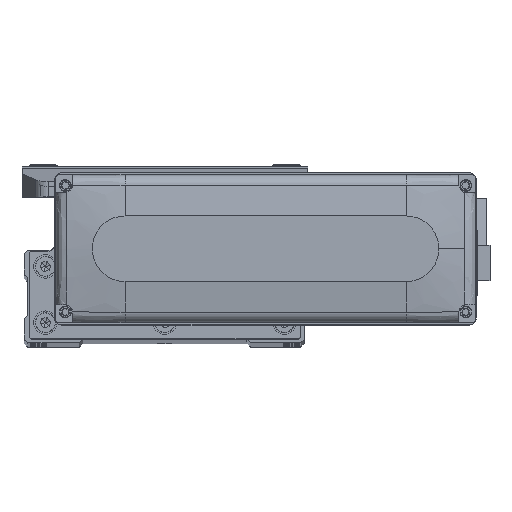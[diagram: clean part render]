
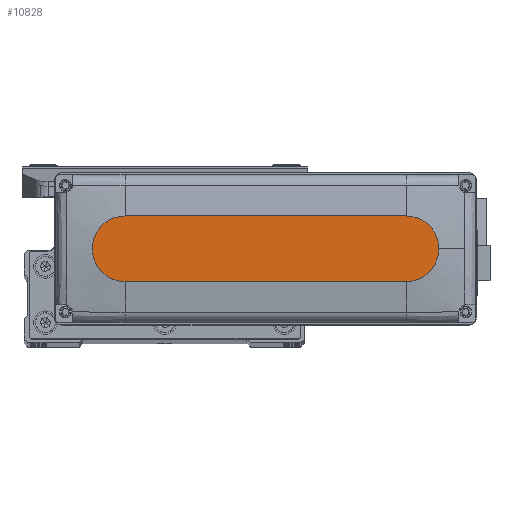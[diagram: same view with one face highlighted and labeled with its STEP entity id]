
A CAD part, top view. The second image highlights one B-rep face of the part: STEP entity #10828.
In plain terms, the highlighted planar face has unit normal (0, 0, 1).
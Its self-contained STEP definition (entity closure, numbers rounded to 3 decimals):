
#2530 = VERTEX_POINT ( 'NONE', #35003 ) ;
#3033 = VECTOR ( 'NONE', #35088, 1000. ) ;
#4590 = EDGE_CURVE ( 'NONE', #38944, #2530, #11893, .T. ) ;
#5436 = LINE ( 'NONE', #20310, #3033 ) ;
#5691 = CARTESIAN_POINT ( 'NONE',  ( -60., 0., 28.5 ) ) ;
#5695 = CIRCLE ( 'NONE', #32869, 14. ) ;
#6597 = AXIS2_PLACEMENT_3D ( 'NONE', #28814, #43568, #10339 ) ;
#8140 = AXIS2_PLACEMENT_3D ( 'NONE', #9543, #24370, #39129 ) ;
#9484 = EDGE_CURVE ( 'NONE', #27054, #38944, #44473, .T. ) ;
#9543 = CARTESIAN_POINT ( 'NONE',  ( 60., 0., 28.5 ) ) ;
#10339 = DIRECTION ( 'NONE',  ( 1., 0., 0. ) ) ;
#10828 = ADVANCED_FACE ( 'NONE', ( #47227 ), #14010, .T. ) ;
#10863 = CARTESIAN_POINT ( 'NONE',  ( 60., 0., 28.5 ) ) ;
#11893 = LINE ( 'NONE', #26714, #44744 ) ;
#14010 = PLANE ( 'NONE',  #6597 ) ;
#17683 = ORIENTED_EDGE ( 'NONE', *, *, #21965, .T. ) ;
#18533 = CARTESIAN_POINT ( 'NONE',  ( 60., 14., 28.5 ) ) ;
#20310 = CARTESIAN_POINT ( 'NONE',  ( -60., 14., 28.5 ) ) ;
#20563 = DIRECTION ( 'NONE',  ( 0., 0., 1. ) ) ;
#20731 = CARTESIAN_POINT ( 'NONE',  ( -60., -14., 28.5 ) ) ;
#21965 = EDGE_CURVE ( 'NONE', #2530, #23086, #29125, .T. ) ;
#23086 = VERTEX_POINT ( 'NONE', #26811 ) ;
#23596 = AXIS2_PLACEMENT_3D ( 'NONE', #5691, #20563, #35350 ) ;
#24061 = ORIENTED_EDGE ( 'NONE', *, *, #25763, .T. ) ;
#24370 = DIRECTION ( 'NONE',  ( 0., 0., 1. ) ) ;
#25697 = DIRECTION ( 'NONE',  ( 0., 0., 1. ) ) ;
#25763 = EDGE_CURVE ( 'NONE', #23086, #42349, #5695, .T. ) ;
#26182 = CARTESIAN_POINT ( 'NONE',  ( -60., 14., 28.5 ) ) ;
#26611 = ORIENTED_EDGE ( 'NONE', *, *, #4590, .T. ) ;
#26714 = CARTESIAN_POINT ( 'NONE',  ( -60., -14., 28.5 ) ) ;
#26811 = CARTESIAN_POINT ( 'NONE',  ( 74., 0., 28.5 ) ) ;
#27054 = VERTEX_POINT ( 'NONE', #26182 ) ;
#28200 = ORIENTED_EDGE ( 'NONE', *, *, #42605, .T. ) ;
#28814 = CARTESIAN_POINT ( 'NONE',  ( 0., 0., 28.5 ) ) ;
#29125 = CIRCLE ( 'NONE', #8140, 14. ) ;
#32306 = ORIENTED_EDGE ( 'NONE', *, *, #9484, .T. ) ;
#32869 = AXIS2_PLACEMENT_3D ( 'NONE', #10863, #25697, #40457 ) ;
#35003 = CARTESIAN_POINT ( 'NONE',  ( 60., -14., 28.5 ) ) ;
#35088 = DIRECTION ( 'NONE',  ( -1., 0., 0. ) ) ;
#35350 = DIRECTION ( 'NONE',  ( 1., 0., 0. ) ) ;
#38944 = VERTEX_POINT ( 'NONE', #20731 ) ;
#39129 = DIRECTION ( 'NONE',  ( 1., 0., 0. ) ) ;
#40457 = DIRECTION ( 'NONE',  ( 1., 0., 0. ) ) ;
#41477 = DIRECTION ( 'NONE',  ( 1., 0., 0. ) ) ;
#42349 = VERTEX_POINT ( 'NONE', #18533 ) ;
#42605 = EDGE_CURVE ( 'NONE', #42349, #27054, #5436, .T. ) ;
#43119 = EDGE_LOOP ( 'NONE', ( #28200, #32306, #26611, #17683, #24061 ) ) ;
#43568 = DIRECTION ( 'NONE',  ( 0., 0., 1. ) ) ;
#44473 = CIRCLE ( 'NONE', #23596, 14. ) ;
#44744 = VECTOR ( 'NONE', #41477, 1000. ) ;
#47227 = FACE_OUTER_BOUND ( 'NONE', #43119, .T. ) ;
